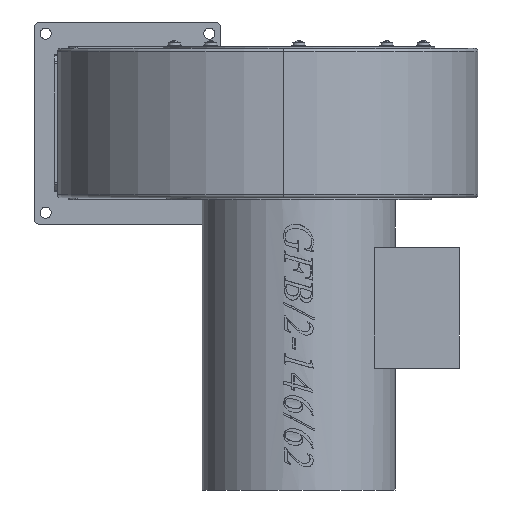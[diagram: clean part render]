
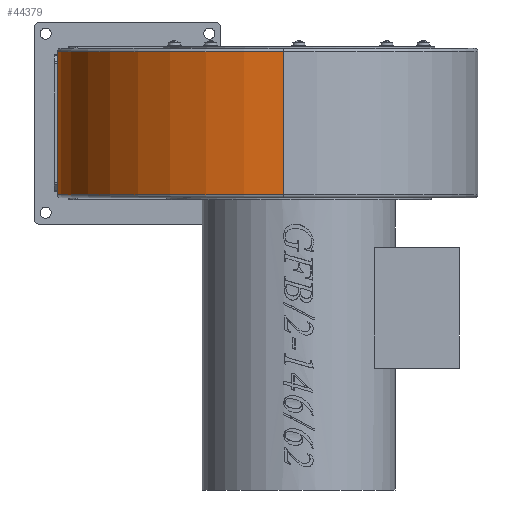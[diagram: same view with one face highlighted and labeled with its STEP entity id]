
A CAD part, left-side view. The second image highlights one B-rep face of the part: STEP entity #44379.
In plain terms, the highlighted cylindrical face has radius 145 mm (diameter 290 mm), a partial arc.
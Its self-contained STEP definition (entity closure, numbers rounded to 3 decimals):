
#1623=CIRCLE('',#46892,145.);
#1635=CIRCLE('',#46913,145.);
#5622=FACE_OUTER_BOUND('',#8323,.T.);
#8323=EDGE_LOOP('',(#40319,#40320,#40321,#40322));
#13541=LINE('',#80188,#17962);
#13563=LINE('',#80271,#17984);
#17962=VECTOR('',#56226,10.);
#17984=VECTOR('',#56328,10.);
#22007=VERTEX_POINT('',#80185);
#22008=VERTEX_POINT('',#80187);
#22022=VERTEX_POINT('',#80240);
#22029=VERTEX_POINT('',#80270);
#28104=EDGE_CURVE('',#22008,#22007,#13541,.T.);
#28132=EDGE_CURVE('',#22008,#22022,#1623,.T.);
#28146=EDGE_CURVE('',#22022,#22029,#13563,.T.);
#28148=EDGE_CURVE('',#22029,#22007,#1635,.T.);
#40319=ORIENTED_EDGE('',*,*,#28132,.F.);
#40320=ORIENTED_EDGE('',*,*,#28104,.T.);
#40321=ORIENTED_EDGE('',*,*,#28148,.F.);
#40322=ORIENTED_EDGE('',*,*,#28146,.F.);
#40592=CYLINDRICAL_SURFACE('',#46912,145.);
#44379=ADVANCED_FACE('',(#5622),#40592,.T.);
#46892=AXIS2_PLACEMENT_3D('',#80242,#56287,#56288);
#46912=AXIS2_PLACEMENT_3D('',#80273,#56331,#56332);
#46913=AXIS2_PLACEMENT_3D('',#80274,#56333,#56334);
#56226=DIRECTION('',(0.,0.,-1.));
#56287=DIRECTION('center_axis',(0.,0.,
1.));
#56288=DIRECTION('ref_axis',(0.,1.,0.));
#56328=DIRECTION('',(0.,0.,-1.));
#56331=DIRECTION('center_axis',(0.,0.,
1.));
#56332=DIRECTION('ref_axis',(-1.,0.,0.));
#56333=DIRECTION('center_axis',(0.,0.,
-1.));
#56334=DIRECTION('ref_axis',(0.,1.,0.));
#80185=CARTESIAN_POINT('',(10.,155.,1.));
#80187=CARTESIAN_POINT('',(10.,155.,93.));
#80188=CARTESIAN_POINT('',(10.,155.,47.));
#80240=CARTESIAN_POINT('',(-135.,10.,93.));
#80242=CARTESIAN_POINT('Origin',(10.,10.,93.));
#80270=CARTESIAN_POINT('',(-135.,10.,1.));
#80271=CARTESIAN_POINT('',(-135.,10.,47.));
#80273=CARTESIAN_POINT('Origin',(10.,10.,95.));
#80274=CARTESIAN_POINT('Origin',(10.,10.,1.));
